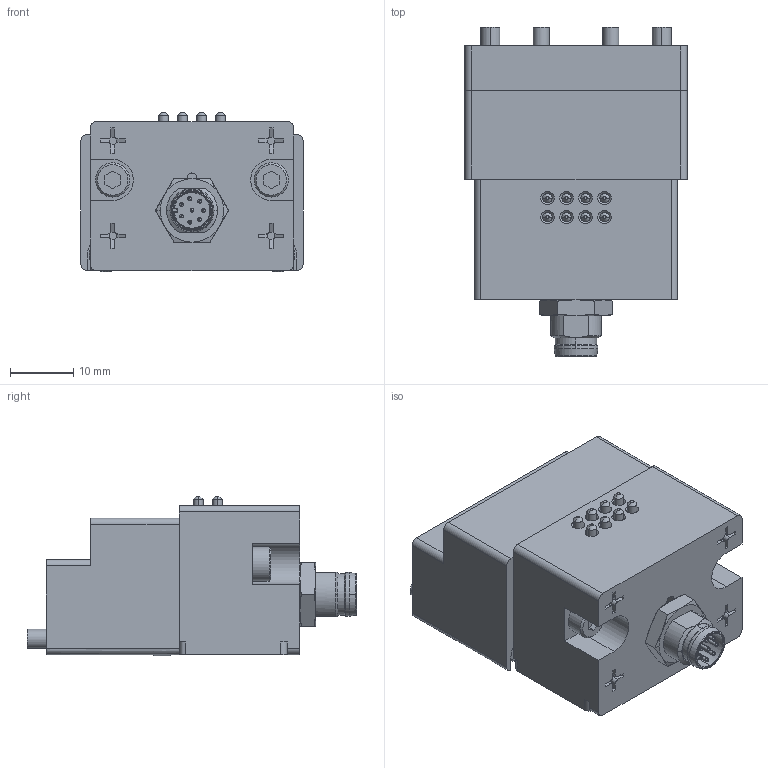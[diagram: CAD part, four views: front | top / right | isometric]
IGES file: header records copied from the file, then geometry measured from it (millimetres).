
Start section: 3D InterOp IGES (v. 2022 1.0.0), Spatial Corp. Copyright (c) 1999-2020.
Global section: file name: KHG-12HS-D28C_ver1.igs; native system: Spatial Corp.; preprocessor: 3D InterOp GENERIC/IGES 3.0; author: Noname; organization: Noname; date: 20260724.094846; units: millimetre
Bounding box: 35 x 52 x 25.2 mm (x, y, z)
Surface area: 7985.9 mm2 (no closed solid volume)
Topology: 0 solids, 0 shells, 521 faces, 2689 edges, 2673 vertices
Faces by surface type: extrusion 279, revolution 242
